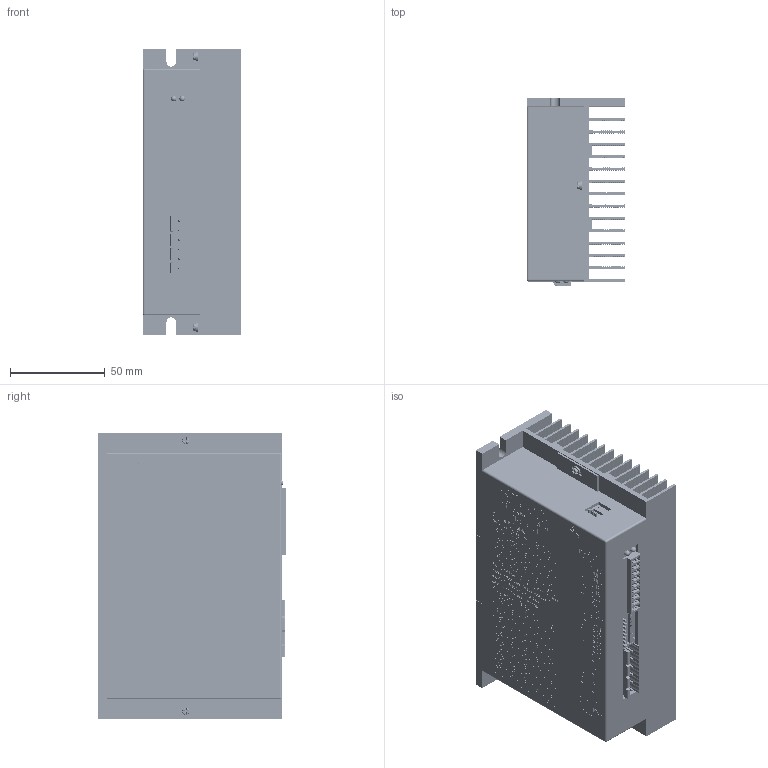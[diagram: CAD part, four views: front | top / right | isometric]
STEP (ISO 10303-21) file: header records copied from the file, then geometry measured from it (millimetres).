
FILE_DESCRIPTION((''),'2;1');
FILE_NAME('2NS860H_ASM','2025-07-08T16:19:37',('Administrator'),(''),'CREO PARAMETRIC BY PTC INC, 2018400','CREO PARAMETRIC BY PTC INC, 2018400','');
FILE_SCHEMA(('CONFIG_CONTROL_DESIGN'));
Products named in the file (3): 2NS860H; 6XINDIANYUANZUO; 2NS860H_ASM
Assembly tree (2 placements, depth 2):
  2NS860H_ASM
    2NS860H
    6XINDIANYUANZUO
Bounding box: 52.1 x 99.15 x 151 mm (x, y, z)
Volume: 482435.3 mm3; surface area: 153831.9 mm2
Topology: 2 solids, 2 shells, 24359 faces, 69140 edges, 46032 vertices
Faces by surface type: plane 23977, cylinder 260, extrusion 64, sphere 26, bspline 19, torus 13
Entity records: 776845 total; most frequent: CARTESIAN_POINT 143205, ORIENTED_EDGE 138232, DIRECTION 117908, EDGE_CURVE 69116, VECTOR 68278, LINE 68214, VERTEX_POINT 46032, EDGE_LOOP 25650
